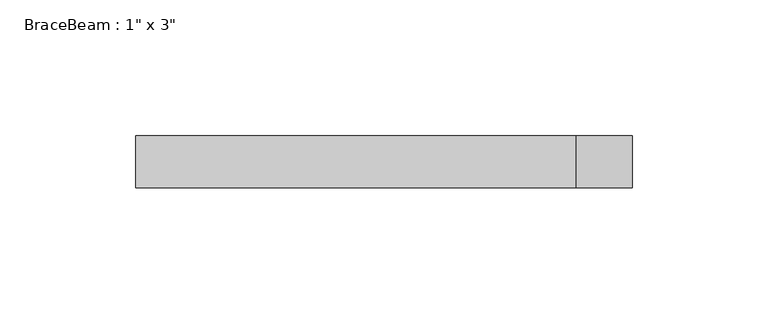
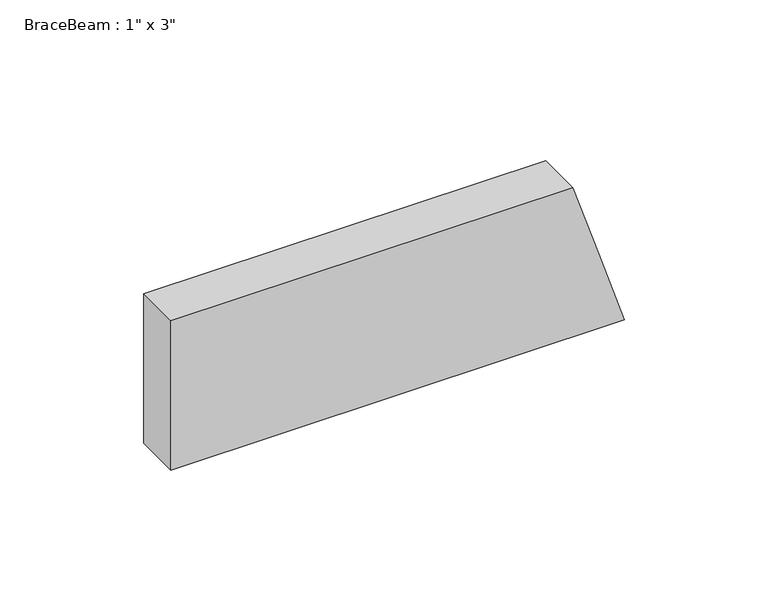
"""IFC4 building model written with IfcOpenShell, lengths in millimetres: beam geometry."""

from ifc_helpers import new_model, si_unit, origin, place, context, project, spatial, faceted_brep, source, transform, mapped, element, save


def beam_426ab018(model_context):
    return source(origin(), model_context, "Body", "Brep", [
        faceted_brep([(-86.8923949, 9.525, -31.75), (95.6068723, 9.525, -31.75), (95.6068723, -9.525, -31.75), (-86.8923949, -9.525, -31.75), (85.2440251, -9.525, 0.0), (74.8811779, -9.525, 31.75), (-86.8923949, -9.525, 31.75), (74.8811779, 9.525, 31.75), (-86.8923949, 9.525, 31.75), (85.2440251, 9.525, 0.0)], [[[0, 1, 2, 3]], [[3, 2, 4, 5, 6]], [[6, 5, 7, 8]], [[8, 7, 9, 1, 0]], [[8, 0, 3, 6]], [[5, 4, 2, 1, 9, 7]]]),
    ])


if __name__ == "__main__":
    model = new_model("IFC4")
    model_context = context("Model", 3, world=origin())
    ifc_project = project(units=[si_unit("LENGTHUNIT", "METRE", prefix="MILLI")], contexts=[model_context])
    site = spatial("IfcSite", under=ifc_project)
    building = spatial("IfcBuilding", under=site)
    placement = place(None, origin())
    beam_shape = beam_426ab018(model_context)
    element("IfcBeam", 1, ObjectType="BraceBeam : 1\" x 3\"", at=placement, inside=building, context=model_context, shape_type="MappedRepresentation", body=[
        mapped(beam_shape, transform((0.0, 0.0, 0.0), x_axis=(1.0, 0.0, 0.0), y_axis=(0.0, 1.0, 0.0), z_axis=(0.0, 0.0, 1.0))),
    ])
    save(model, "model.ifc")
